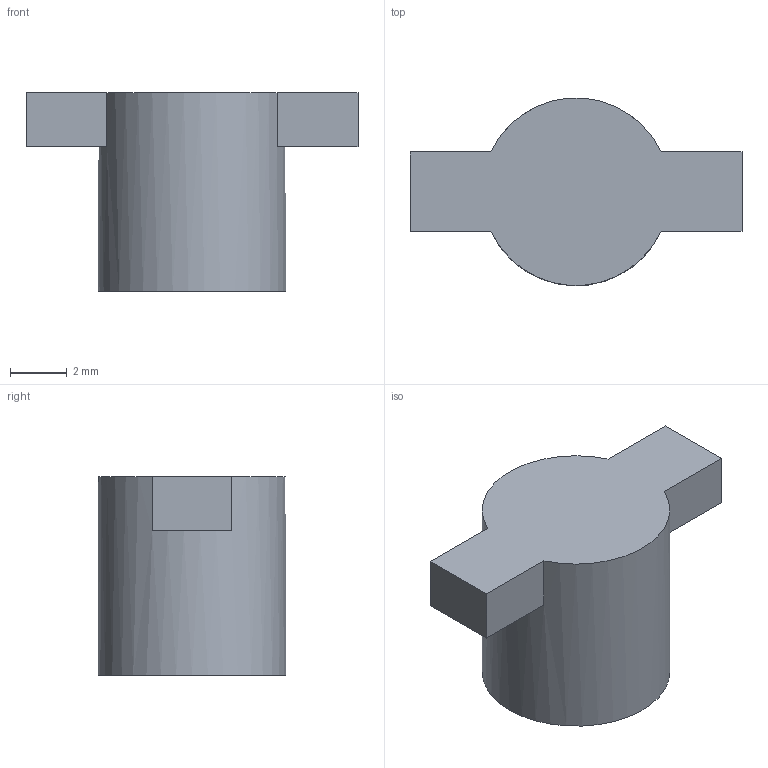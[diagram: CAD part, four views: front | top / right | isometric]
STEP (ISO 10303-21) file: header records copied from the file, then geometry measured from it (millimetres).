
FILE_DESCRIPTION (( 'STEP AP203' ), '1' );
FILE_NAME ('Shoulder Button.step', '2015-03-14T23:36:19', ( '' ), ( '' ), 'SwSTEP 2.0', 'SolidWorks 2013', '' );
FILE_SCHEMA (( 'CONFIG_CONTROL_DESIGN' ));
Length unit declared in the file: inch
Products named in the file (1): Shoulder Button
Bounding box: 11.68 x 6.6 x 6.99 mm (x, y, z)
Volume: 267.4 mm3; surface area: 264.3 mm2
Topology: 1 solids, 1 shells, 11 faces, 27 edges, 18 vertices
Faces by surface type: plane 10, cylinder 1
Full cylindrical faces by diameter (mm): 6.604 x1
Entity records: 391 total; most frequent: DIRECTION 54, CARTESIAN_POINT 54, ORIENTED_EDGE 50, EDGE_CURVE 25, VECTOR 20, LINE 20, VERTEX_POINT 17, AXIS2_PLACEMENT_3D 17
